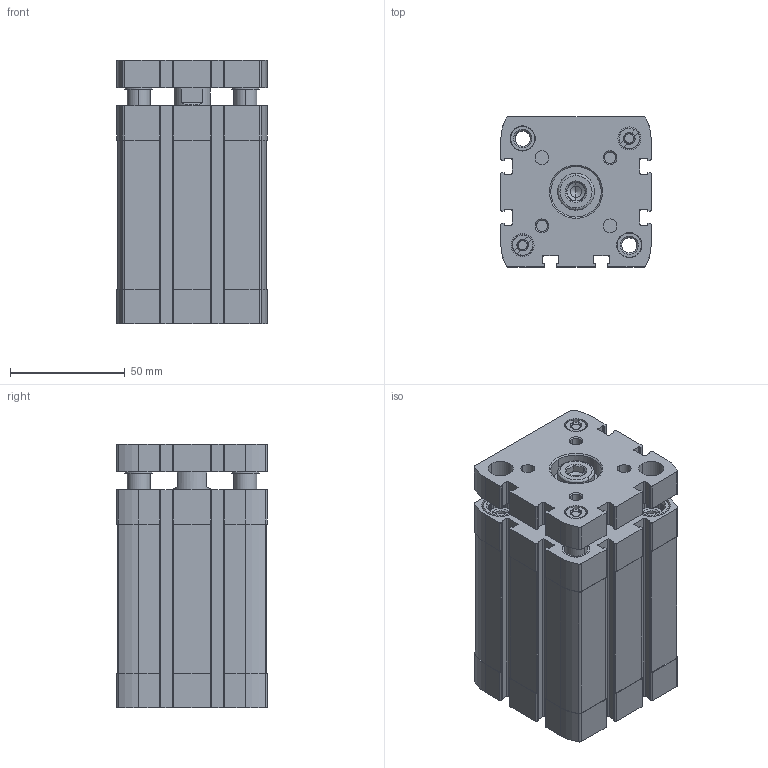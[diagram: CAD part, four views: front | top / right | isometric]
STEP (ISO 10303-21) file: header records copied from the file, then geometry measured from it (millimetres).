
FILE_DESCRIPTION (( 'STEP AP203' ), '1' );
FILE_NAME ('CCNG50-50.STEP', '2017-04-20T13:43:42', ( '' ), ( '' ), 'SwSTEP 2.0', 'SolidWorks 2016', '' );
FILE_SCHEMA (( 'CONFIG_CONTROL_DESIGN' ));
Length unit declared in the file: millimetre
Products named in the file (3): CCNG-50-50----(KS); CCNG50-50; CCNG-50-50----(Z)
Assembly tree (2 placements, depth 2):
  CCNG50-50
    CCNG-50-50----(Z)
    CCNG-50-50----(KS)
Bounding box: 65.5 x 65.5 x 114.7 mm (x, y, z)
Volume: 322693.2 mm3; surface area: 96673.9 mm2
Topology: 2 solids, 4 shells, 714 faces, 1924 edges, 1261 vertices
Faces by surface type: plane 358, cylinder 278, cone 72, bspline 6
Entity records: 23131 total; most frequent: CARTESIAN_POINT 4438, DIRECTION 3960, ORIENTED_EDGE 3844, EDGE_CURVE 1922, AXIS2_PLACEMENT_3D 1459, VERTEX_POINT 1261, LINE 1042, VECTOR 1042
